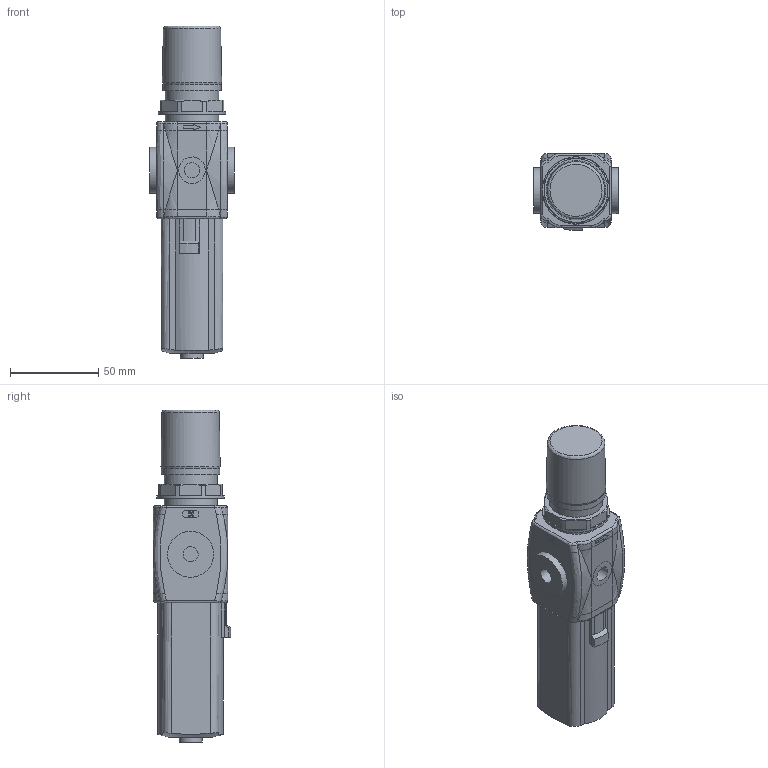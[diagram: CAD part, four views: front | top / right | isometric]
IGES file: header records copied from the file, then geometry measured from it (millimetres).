
Global section: file name: N171AE##S; native system: Autodesk Inventor 2014; preprocessor: unknown; author: M. Valota; organization: Pneumax S.p.A.; date: 20140522.102903; units: millimetre
Bounding box: 48 x 43.6 x 187.6 mm (x, y, z)
Volume: 226089.8 mm3; surface area: 33198.9 mm2
Topology: 2 solids, 2 shells, 326 faces, 807 edges, 523 vertices
Faces by surface type: bspline 326
